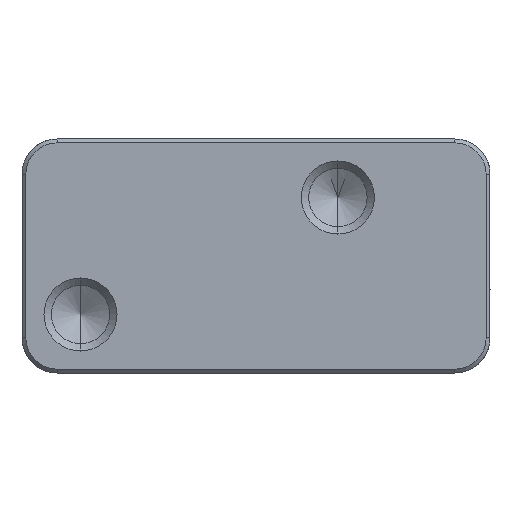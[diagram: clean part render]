
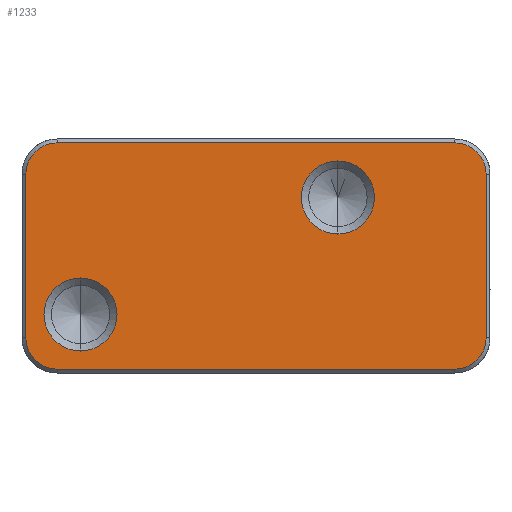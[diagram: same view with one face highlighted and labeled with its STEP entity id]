
A CAD part, front view. The second image highlights one B-rep face of the part: STEP entity #1233.
In plain terms, the highlighted planar face has unit normal (0, -1, 0).
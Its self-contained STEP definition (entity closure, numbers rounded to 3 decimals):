
#1 = LINE ( 'NONE', #4426, #2028 ) ;
#171 = VERTEX_POINT ( 'NONE', #5858 ) ;
#204 = EDGE_CURVE ( 'NONE', #11672, #9986, #7340, .T. ) ;
#335 = DIRECTION ( 'NONE',  ( 0., 1., 0. ) ) ;
#337 = ORIENTED_EDGE ( 'NONE', *, *, #204, .T. ) ;
#852 = AXIS2_PLACEMENT_3D ( 'NONE', #11097, #1153, #7821 ) ;
#943 = CARTESIAN_POINT ( 'NONE',  ( 9.833, 0., 3.498 ) ) ;
#950 = CIRCLE ( 'NONE', #9053, 1.333 ) ;
#959 = AXIS2_PLACEMENT_3D ( 'NONE', #1058, #6366, #12164 ) ;
#1024 = EDGE_CURVE ( 'NONE', #3438, #171, #11747, .T. ) ;
#1058 = CARTESIAN_POINT ( 'NONE',  ( 8.5, 0., 3.498 ) ) ;
#1145 = DIRECTION ( 'NONE',  ( 0., 0., 1. ) ) ;
#1153 = DIRECTION ( 'NONE',  ( 0., -1., 0. ) ) ;
#1233 = ADVANCED_FACE ( 'NONE', ( #6671, #12477, #8906 ), #2523, .T. ) ;
#1308 = AXIS2_PLACEMENT_3D ( 'NONE', #11225, #335, #4274 ) ;
#1556 = DIRECTION ( 'NONE',  ( 0., -1., 0. ) ) ;
#1724 = ORIENTED_EDGE ( 'NONE', *, *, #10505, .T. ) ;
#1876 = CARTESIAN_POINT ( 'NONE',  ( 8.5, 0., 4.831 ) ) ;
#2028 = VECTOR ( 'NONE', #12485, 1000. ) ;
#2100 = CARTESIAN_POINT ( 'NONE',  ( 8.5, 0., -3.503 ) ) ;
#2244 = CARTESIAN_POINT ( 'NONE',  ( 9.833, 0., -3.503 ) ) ;
#2273 = EDGE_LOOP ( 'NONE', ( #7086, #8898 ) ) ;
#2277 = CARTESIAN_POINT ( 'NONE',  ( -7.5, 0., -2.503 ) ) ;
#2308 = VERTEX_POINT ( 'NONE', #14144 ) ;
#2523 = PLANE ( 'NONE',  #852 ) ;
#2711 = CARTESIAN_POINT ( 'NONE',  ( -8.5, 0., 3.498 ) ) ;
#2808 = CIRCLE ( 'NONE', #10930, 1.562 ) ;
#2845 = EDGE_CURVE ( 'NONE', #9986, #11672, #8978, .T. ) ;
#3181 = DIRECTION ( 'NONE',  ( 0., 0., -1. ) ) ;
#3252 = LINE ( 'NONE', #11098, #8770 ) ;
#3438 = VERTEX_POINT ( 'NONE', #7073 ) ;
#3454 = DIRECTION ( 'NONE',  ( 0., 1., 0. ) ) ;
#3811 = VERTEX_POINT ( 'NONE', #1876 ) ;
#3988 = DIRECTION ( 'NONE',  ( 0., 1., 0. ) ) ;
#4184 = EDGE_CURVE ( 'NONE', #10486, #10115, #6447, .T. ) ;
#4274 = DIRECTION ( 'NONE',  ( 0., 0., -1. ) ) ;
#4277 = EDGE_CURVE ( 'NONE', #3811, #3438, #1, .T. ) ;
#4426 = CARTESIAN_POINT ( 'NONE',  ( -10., 0., 4.831 ) ) ;
#4611 = VECTOR ( 'NONE', #12123, 1000. ) ;
#4666 = CIRCLE ( 'NONE', #959, 1.333 ) ;
#4684 = DIRECTION ( 'NONE',  ( 0., 0., 1. ) ) ;
#4839 = ORIENTED_EDGE ( 'NONE', *, *, #1024, .T. ) ;
#4923 = ORIENTED_EDGE ( 'NONE', *, *, #4277, .T. ) ;
#5389 = DIRECTION ( 'NONE',  ( 0., 1., 0. ) ) ;
#5491 = AXIS2_PLACEMENT_3D ( 'NONE', #2711, #1556, #4684 ) ;
#5502 = CARTESIAN_POINT ( 'NONE',  ( -8.5, 0., -3.503 ) ) ;
#5858 = CARTESIAN_POINT ( 'NONE',  ( -9.833, 0., 3.498 ) ) ;
#5909 = CARTESIAN_POINT ( 'NONE',  ( -7.5, 0., -4.065 ) ) ;
#5969 = DIRECTION ( 'NONE',  ( 0., 0., -1. ) ) ;
#6042 = VECTOR ( 'NONE', #14317, 1000. ) ;
#6215 = AXIS2_PLACEMENT_3D ( 'NONE', #2100, #10750, #9860 ) ;
#6366 = DIRECTION ( 'NONE',  ( 0., -1., 0. ) ) ;
#6447 = CIRCLE ( 'NONE', #6215, 1.333 ) ;
#6480 = DIRECTION ( 'NONE',  ( 0., 0., -1. ) ) ;
#6671 = FACE_OUTER_BOUND ( 'NONE', #14325, .T. ) ;
#6686 = CARTESIAN_POINT ( 'NONE',  ( -9.833, 0., -5.003 ) ) ;
#7073 = CARTESIAN_POINT ( 'NONE',  ( -8.5, 0., 4.831 ) ) ;
#7086 = ORIENTED_EDGE ( 'NONE', *, *, #8180, .T. ) ;
#7340 = CIRCLE ( 'NONE', #1308, 1.562 ) ;
#7485 = EDGE_CURVE ( 'NONE', #10486, #8460, #13206, .T. ) ;
#7525 = EDGE_CURVE ( 'NONE', #10115, #9237, #3252, .T. ) ;
#7689 = CARTESIAN_POINT ( 'NONE',  ( 9.833, 0., -5.003 ) ) ;
#7821 = DIRECTION ( 'NONE',  ( 0., 0., -1. ) ) ;
#8014 = EDGE_LOOP ( 'NONE', ( #337, #14005 ) ) ;
#8119 = VERTEX_POINT ( 'NONE', #5909 ) ;
#8180 = EDGE_CURVE ( 'NONE', #8119, #2308, #11113, .T. ) ;
#8272 = AXIS2_PLACEMENT_3D ( 'NONE', #13950, #3988, #3181 ) ;
#8460 = VERTEX_POINT ( 'NONE', #943 ) ;
#8495 = CARTESIAN_POINT ( 'NONE',  ( -7.5, 0., -2.503 ) ) ;
#8627 = ORIENTED_EDGE ( 'NONE', *, *, #14309, .T. ) ;
#8770 = VECTOR ( 'NONE', #9929, 1000. ) ;
#8881 = DIRECTION ( 'NONE',  ( 0., 1., 0. ) ) ;
#8898 = ORIENTED_EDGE ( 'NONE', *, *, #14366, .T. ) ;
#8906 = FACE_BOUND ( 'NONE', #8014, .T. ) ;
#8978 = CIRCLE ( 'NONE', #8272, 1.562 ) ;
#9053 = AXIS2_PLACEMENT_3D ( 'NONE', #5502, #3454, #1145 ) ;
#9097 = ORIENTED_EDGE ( 'NONE', *, *, #7485, .T. ) ;
#9237 = VERTEX_POINT ( 'NONE', #13832 ) ;
#9860 = DIRECTION ( 'NONE',  ( 0., 0., 1. ) ) ;
#9867 = LINE ( 'NONE', #6686, #6042 ) ;
#9929 = DIRECTION ( 'NONE',  ( -1., 0., 0. ) ) ;
#9986 = VERTEX_POINT ( 'NONE', #11936 ) ;
#10115 = VERTEX_POINT ( 'NONE', #12006 ) ;
#10486 = VERTEX_POINT ( 'NONE', #2244 ) ;
#10505 = EDGE_CURVE ( 'NONE', #171, #10995, #9867, .T. ) ;
#10588 = ORIENTED_EDGE ( 'NONE', *, *, #7525, .F. ) ;
#10750 = DIRECTION ( 'NONE',  ( 0., 1., 0. ) ) ;
#10930 = AXIS2_PLACEMENT_3D ( 'NONE', #2277, #8881, #5969 ) ;
#10953 = ORIENTED_EDGE ( 'NONE', *, *, #12956, .F. ) ;
#10995 = VERTEX_POINT ( 'NONE', #12512 ) ;
#11097 = CARTESIAN_POINT ( 'NONE',  ( -10., 0., -5.003 ) ) ;
#11098 = CARTESIAN_POINT ( 'NONE',  ( -10., 0., -4.836 ) ) ;
#11113 = CIRCLE ( 'NONE', #14140, 1.562 ) ;
#11225 = CARTESIAN_POINT ( 'NONE',  ( 3.5, 0., 2.497 ) ) ;
#11481 = CARTESIAN_POINT ( 'NONE',  ( 3.5, 0., 0.935 ) ) ;
#11672 = VERTEX_POINT ( 'NONE', #11481 ) ;
#11747 = CIRCLE ( 'NONE', #5491, 1.333 ) ;
#11936 = CARTESIAN_POINT ( 'NONE',  ( 3.5, 0., 4.06 ) ) ;
#12006 = CARTESIAN_POINT ( 'NONE',  ( 8.5, 0., -4.836 ) ) ;
#12123 = DIRECTION ( 'NONE',  ( 0., 0., 1. ) ) ;
#12164 = DIRECTION ( 'NONE',  ( 0., 0., 1. ) ) ;
#12477 = FACE_BOUND ( 'NONE', #2273, .T. ) ;
#12485 = DIRECTION ( 'NONE',  ( -1., 0., 0. ) ) ;
#12512 = CARTESIAN_POINT ( 'NONE',  ( -9.833, 0., -3.503 ) ) ;
#12956 = EDGE_CURVE ( 'NONE', #9237, #10995, #950, .T. ) ;
#13206 = LINE ( 'NONE', #7689, #4611 ) ;
#13832 = CARTESIAN_POINT ( 'NONE',  ( -8.5, 0., -4.836 ) ) ;
#13950 = CARTESIAN_POINT ( 'NONE',  ( 3.5, 0., 2.497 ) ) ;
#14005 = ORIENTED_EDGE ( 'NONE', *, *, #2845, .T. ) ;
#14140 = AXIS2_PLACEMENT_3D ( 'NONE', #8495, #5389, #6480 ) ;
#14144 = CARTESIAN_POINT ( 'NONE',  ( -7.5, 0., -0.94 ) ) ;
#14271 = ORIENTED_EDGE ( 'NONE', *, *, #4184, .F. ) ;
#14309 = EDGE_CURVE ( 'NONE', #8460, #3811, #4666, .T. ) ;
#14317 = DIRECTION ( 'NONE',  ( 0., 0., -1. ) ) ;
#14325 = EDGE_LOOP ( 'NONE', ( #1724, #10953, #10588, #14271, #9097, #8627, #4923, #4839 ) ) ;
#14366 = EDGE_CURVE ( 'NONE', #2308, #8119, #2808, .T. ) ;
